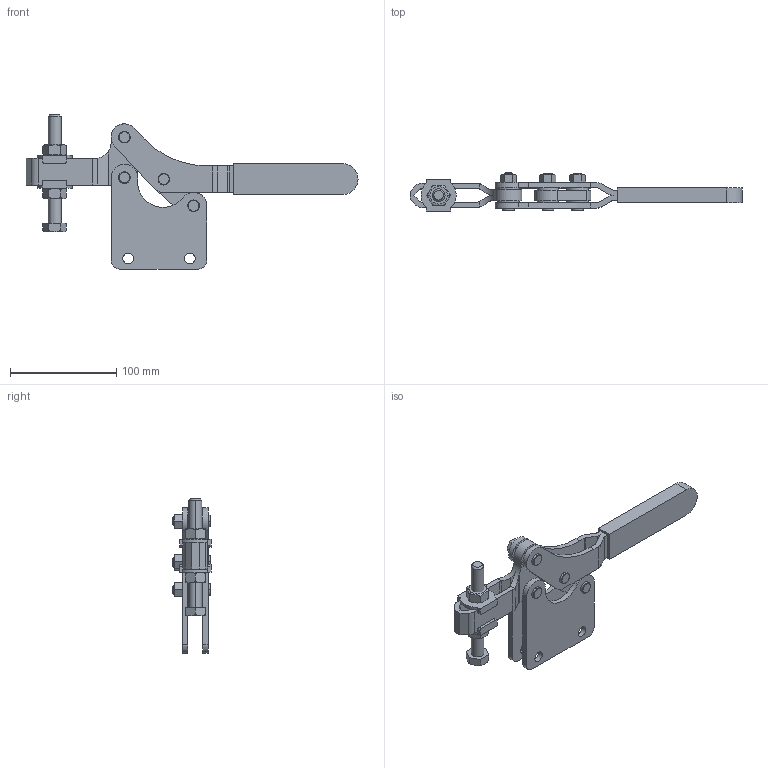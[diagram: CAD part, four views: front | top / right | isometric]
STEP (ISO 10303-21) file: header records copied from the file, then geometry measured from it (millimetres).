
FILE_DESCRIPTION(('CATIA V5 STEP Exchange'),'2;1');
FILE_NAME('D:\Model\toggle\toggle_standard\KJF_065_21S.stp','2005-06-24T03:03:31+00:00',('none'),('none'),'CATIA Version 5 Release 11 (IN-9)','CATIA V5 STEP AP203',' none');
FILE_SCHEMA(('CONFIG_CONTROL_DESIGN'));
Length unit declared in the file: millimetre
Products named in the file (1): Part1
Bounding box: 312 x 35.75 x 144.89 mm (x, y, z)
Volume: 237317.7 mm3; surface area: 99844.3 mm2
Topology: 26 solids, 26 shells, 364 faces, 896 edges, 588 vertices
Faces by surface type: plane 163, cylinder 113, cone 78, torus 10
Entity records: 11178 total; most frequent: CARTESIAN_POINT 3291, ORIENTED_EDGE 1792, DIRECTION 1232, EDGE_CURVE 896, VERTEX_POINT 588, AXIS2_PLACEMENT_3D 571, VECTOR 400, LINE 400
